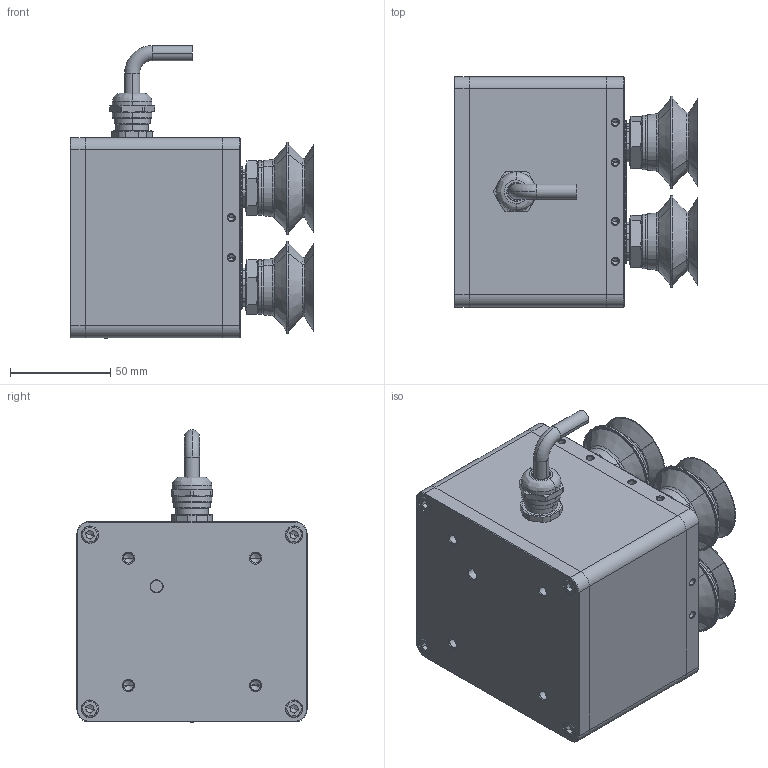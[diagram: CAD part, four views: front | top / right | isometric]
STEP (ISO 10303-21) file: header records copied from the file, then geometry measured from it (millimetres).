
FILE_DESCRIPTION (( 'STEP AP214' ), '1' );
FILE_NAME ('新真空吸盘-a（不带法兰）.STEP', '2022-07-19T03:42:17', ( 'User' ), ( 'China' ), 'SwSTEP 2.0', 'SolidWorks 2016', '' );
FILE_SCHEMA (( 'AUTOMOTIVE_DESIGN' ));
Length unit declared in the file: millimetre
Products named in the file (1): 新真空吸盘-a（不带法兰）
Bounding box: 121.8 x 115 x 146.3 mm (x, y, z)
Volume: 317764.6 mm3; surface area: 169098.3 mm2
Topology: 22 solids, 22 shells, 1545 faces, 3651 edges, 2217 vertices
Faces by surface type: plane 513, cone 419, cylinder 389, bspline 204, torus 18, sphere 2
Entity records: 63561 total; most frequent: CARTESIAN_POINT 11498, DIRECTION 7269, ORIENTED_EDGE 7126, EDGE_CURVE 3563, AXIS2_PLACEMENT_3D 2746, VERTEX_POINT 2217, VECTOR 1777, LINE 1777
